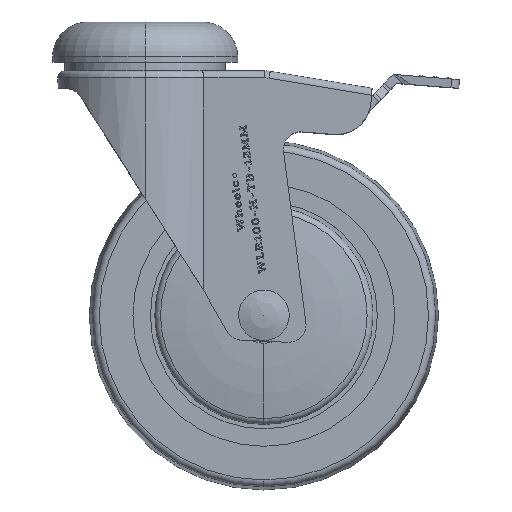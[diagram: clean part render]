
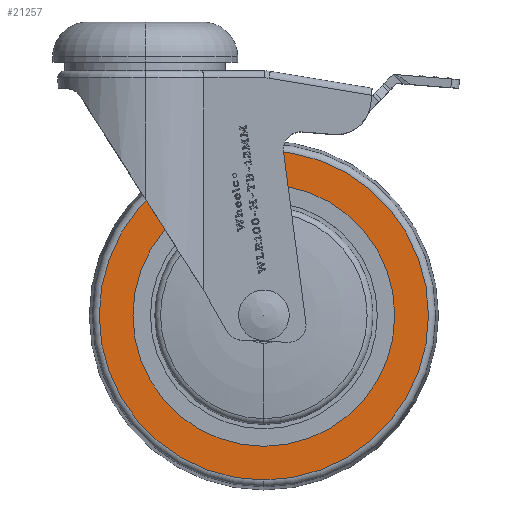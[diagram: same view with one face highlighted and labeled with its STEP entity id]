
A CAD part, top view. The second image highlights one B-rep face of the part: STEP entity #21257.
In plain terms, the highlighted planar face has unit normal (0, 0, 1) as drawn and (0, 1, 0) by its records, which use the part's own axes.
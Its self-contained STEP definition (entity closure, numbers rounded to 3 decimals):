
#845 = ORIENTED_EDGE ( 'NONE', *, *, #21050, .T. ) ;
#1493 = CIRCLE ( 'NONE', #22022, 47.154 ) ;
#1607 = DIRECTION ( 'NONE',  ( 0., -1., 0. ) ) ;
#2764 = CARTESIAN_POINT ( 'NONE',  ( 0., 12.5, 37.5 ) ) ;
#2787 = FACE_OUTER_BOUND ( 'NONE', #6223, .T. ) ;
#2943 = CARTESIAN_POINT ( 'NONE',  ( 49., 12.5, 0. ) ) ;
#4439 = VERTEX_POINT ( 'NONE', #11540 ) ;
#4553 = VERTEX_POINT ( 'NONE', #15832 ) ;
#5031 = CARTESIAN_POINT ( 'NONE',  ( 0., 12.5, 0. ) ) ;
#6223 = EDGE_LOOP ( 'NONE', ( #26086, #20935 ) ) ;
#6608 = EDGE_LOOP ( 'NONE', ( #25164, #845 ) ) ;
#7597 = DIRECTION ( 'NONE',  ( 0., -1., 0. ) ) ;
#9075 = CARTESIAN_POINT ( 'NONE',  ( 0., 12.5, 0. ) ) ;
#9579 = CARTESIAN_POINT ( 'NONE',  ( 0., 12.5, 0. ) ) ;
#10590 = CIRCLE ( 'NONE', #23771, 37.5 ) ;
#11233 = CARTESIAN_POINT ( 'NONE',  ( 0., 12.5, 0. ) ) ;
#11540 = CARTESIAN_POINT ( 'NONE',  ( 0., 12.5, -47.154 ) ) ;
#11897 = EDGE_CURVE ( 'NONE', #4553, #4439, #18193, .T. ) ;
#12194 = DIRECTION ( 'NONE',  ( 0., 0., 1. ) ) ;
#12607 = VERTEX_POINT ( 'NONE', #19033 ) ;
#13050 = CIRCLE ( 'NONE', #30134, 37.5 ) ;
#13352 = DIRECTION ( 'NONE',  ( 0., 0., 1. ) ) ;
#14075 = PLANE ( 'NONE',  #25233 ) ;
#15832 = CARTESIAN_POINT ( 'NONE',  ( 0., 12.5, 47.154 ) ) ;
#18193 = CIRCLE ( 'NONE', #28439, 47.154 ) ;
#18924 = DIRECTION ( 'NONE',  ( 0., 0., 1. ) ) ;
#19033 = CARTESIAN_POINT ( 'NONE',  ( 0., 12.5, -37.5 ) ) ;
#20048 = EDGE_CURVE ( 'NONE', #4439, #4553, #1493, .T. ) ;
#20935 = ORIENTED_EDGE ( 'NONE', *, *, #20048, .T. ) ;
#21050 = EDGE_CURVE ( 'NONE', #12607, #24746, #10590, .T. ) ;
#21257 = ADVANCED_FACE ( 'NONE', ( #2787, #28302 ), #14075, .T. ) ;
#21380 = DIRECTION ( 'NONE',  ( 0., 1., 0. ) ) ;
#22022 = AXIS2_PLACEMENT_3D ( 'NONE', #9075, #30148, #23297 ) ;
#22505 = EDGE_CURVE ( 'NONE', #24746, #12607, #13050, .T. ) ;
#23297 = DIRECTION ( 'NONE',  ( 0., 0., 1. ) ) ;
#23771 = AXIS2_PLACEMENT_3D ( 'NONE', #11233, #1607, #13352 ) ;
#24038 = DIRECTION ( 'NONE',  ( 0., 0., 1. ) ) ;
#24746 = VERTEX_POINT ( 'NONE', #2764 ) ;
#25164 = ORIENTED_EDGE ( 'NONE', *, *, #22505, .T. ) ;
#25233 = AXIS2_PLACEMENT_3D ( 'NONE', #2943, #28595, #24038 ) ;
#26086 = ORIENTED_EDGE ( 'NONE', *, *, #11897, .T. ) ;
#28302 = FACE_BOUND ( 'NONE', #6608, .T. ) ;
#28439 = AXIS2_PLACEMENT_3D ( 'NONE', #5031, #21380, #12194 ) ;
#28595 = DIRECTION ( 'NONE',  ( 0., 1., 0. ) ) ;
#30134 = AXIS2_PLACEMENT_3D ( 'NONE', #9579, #7597, #18924 ) ;
#30148 = DIRECTION ( 'NONE',  ( 0., 1., 0. ) ) ;
